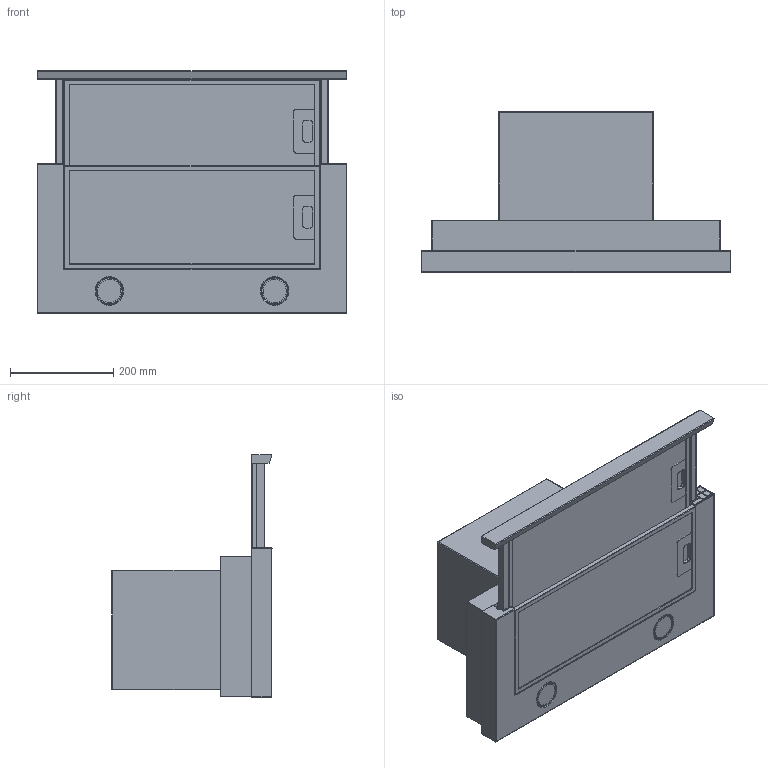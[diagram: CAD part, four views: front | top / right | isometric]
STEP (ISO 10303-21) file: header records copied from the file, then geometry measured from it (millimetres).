
FILE_DESCRIPTION (( 'STEP AP203' ), '1' );
FILE_NAME ('514461_BHP623E13X.STEP', '2017-04-11T07:00:35', ( '' ), ( '' ), 'SwSTEP 2.0', 'SolidWorks 2016', '' );
FILE_SCHEMA (( 'CONFIG_CONTROL_DESIGN' ));
Length unit declared in the file: millimetre
Products named in the file (19): DODANIE-WYCIGNICIE2; WYTNIJ-WYCIGNICIE3; DODANIE-WYCIGNICIE2-1; ODGICIE KRAWDZI5; IMPORT1-4; SZKIC ZGICIA4; IMPORT1-5; WYTNIJ-WYCIGNICIE1-1; IMPORT1; 001_514461; ZAOKRGLENIE6; SZKIC ZGICIA8; 514461_BHP623E13X; ZAOKRGLENIE6-1; IMPORT1-1; ZAOKRGLENIE5; IMPORT1-2; ZAOKRGLENIE5-1; WYTNIJ-WYCIGNICIE1
Assembly tree (18 placements, depth 3):
  514461_BHP623E13X
    001_514461
      IMPORT1
      SZKIC ZGICIA8
      IMPORT1-1
      IMPORT1-2
      WYTNIJ-WYCIGNICIE1
      WYTNIJ-WYCIGNICIE3
      ODGICIE KRAWDZI5
      SZKIC ZGICIA4
      WYTNIJ-WYCIGNICIE1-1
      ZAOKRGLENIE6
      ZAOKRGLENIE6-1
      ZAOKRGLENIE5
      ZAOKRGLENIE5-1
      DODANIE-WYCIGNICIE2
      DODANIE-WYCIGNICIE2-1
      IMPORT1-4
      IMPORT1-5
Bounding box: 598.52 x 309.83 x 468.9 mm (x, y, z)
Volume: 26040939 mm3; surface area: 1917070 mm2
Topology: 17 solids, 17 shells, 559 faces, 1306 edges, 780 vertices
Faces by surface type: plane 266, cylinder 176, torus 44, sphere 43, bspline 16, cone 14
Entity records: 18733 total; most frequent: CARTESIAN_POINT 4113, DIRECTION 2696, ORIENTED_EDGE 2584, EDGE_CURVE 1292, AXIS2_PLACEMENT_3D 976, VERTEX_POINT 780, LINE 744, VECTOR 744
